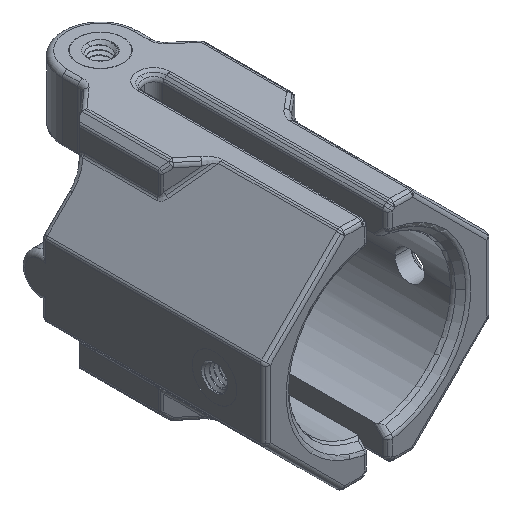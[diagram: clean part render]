
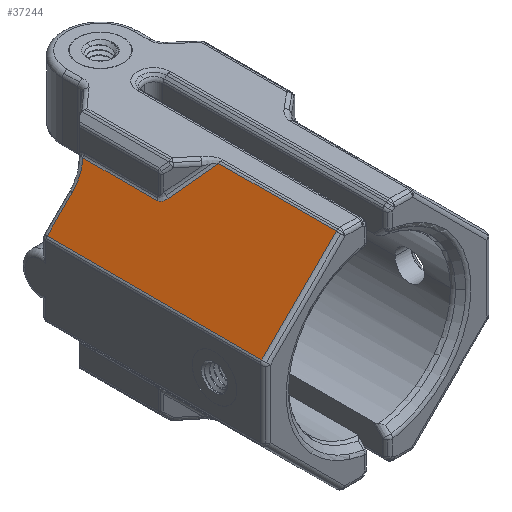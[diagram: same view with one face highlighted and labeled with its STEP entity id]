
A CAD part, isometric view. The second image highlights one B-rep face of the part: STEP entity #37244.
In plain terms, the highlighted planar face has unit normal (-0.707, 0, 0.707).
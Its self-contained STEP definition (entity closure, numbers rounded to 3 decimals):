
#597 = ORIENTED_EDGE ( 'NONE', *, *, #2888, .F. ) ;
#2472 = LINE ( 'NONE', #64556, #21283 ) ;
#2888 = EDGE_CURVE ( 'NONE', #40822, #22900, #19244, .T. ) ;
#3066 = DIRECTION ( 'NONE',  ( -0.707, 0., 0.707 ) ) ;
#3221 = DIRECTION ( 'NONE',  ( 0., 1., 0. ) ) ;
#3418 = CARTESIAN_POINT ( 'NONE',  ( -6.636, 14.467, 8.001 ) ) ;
#3850 = CARTESIAN_POINT ( 'NONE',  ( -6.766, 11.045, 7.871 ) ) ;
#4153 = CARTESIAN_POINT ( 'NONE',  ( -11.12, 0., 3.517 ) ) ;
#5545 = CARTESIAN_POINT ( 'NONE',  ( -6.401, 14.274, 8.236 ) ) ;
#5576 = ORIENTED_EDGE ( 'NONE', *, *, #70175, .F. ) ;
#7131 =( BOUNDED_CURVE ( )  B_SPLINE_CURVE ( 3, ( #19030, #58826, #3418, #19405 ),
 .UNSPECIFIED., .F., .F. ) 
 B_SPLINE_CURVE_WITH_KNOTS ( ( 4, 4 ),
 ( 0., 0.883 ),
 .UNSPECIFIED. ) 
 CURVE ( )  GEOMETRIC_REPRESENTATION_ITEM ( )  RATIONAL_B_SPLINE_CURVE ( ( 1., 0.936, 0.936, 1. ) ) 
 REPRESENTATION_ITEM ( '' )  );
#9061 = CARTESIAN_POINT ( 'NONE',  ( -7.85, 21.59, 6.787 ) ) ;
#10116 = VECTOR ( 'NONE', #66929, 1000. ) ;
#11800 = EDGE_LOOP ( 'NONE', ( #19533, #597, #72174, #64588, #43386, #52592, #63074, #5576 ) ) ;
#12932 = EDGE_CURVE ( 'NONE', #35968, #40822, #66219, .T. ) ;
#13585 = VECTOR ( 'NONE', #37386, 1000. ) ;
#14757 = VERTEX_POINT ( 'NONE', #70008 ) ;
#16316 = VERTEX_POINT ( 'NONE', #53328 ) ;
#17117 = CARTESIAN_POINT ( 'NONE',  ( -6.766, 15.046, 7.871 ) ) ;
#19030 = CARTESIAN_POINT ( 'NONE',  ( -6.766, 15.046, 7.871 ) ) ;
#19244 = LINE ( 'NONE', #36704, #38084 ) ;
#19405 = CARTESIAN_POINT ( 'NONE',  ( -6.401, 14.274, 8.236 ) ) ;
#19533 = ORIENTED_EDGE ( 'NONE', *, *, #49228, .F. ) ;
#19949 = CARTESIAN_POINT ( 'NONE',  ( -4.585, 12.781, 10.052 ) ) ;
#19993 = DIRECTION ( 'NONE',  ( -0.707, 0., -0.707 ) ) ;
#21283 = VECTOR ( 'NONE', #3221, 1000. ) ;
#22676 = VERTEX_POINT ( 'NONE', #17117 ) ;
#22900 = VERTEX_POINT ( 'NONE', #40741 ) ;
#23131 = EDGE_CURVE ( 'NONE', #22676, #32758, #7131, .T. ) ;
#31960 = LINE ( 'NONE', #60943, #44071 ) ;
#32427 = PLANE ( 'NONE',  #57337 ) ;
#32758 = VERTEX_POINT ( 'NONE', #5545 ) ;
#35968 = VERTEX_POINT ( 'NONE', #72292 ) ;
#36704 = CARTESIAN_POINT ( 'NONE',  ( -9.219, 0.5, 5.418 ) ) ;
#37244 = ADVANCED_FACE ( 'NONE', ( #59558 ), #32427, .T. ) ;
#37386 = DIRECTION ( 'NONE',  ( 0.611, -0.502, 0.611 ) ) ;
#38084 = VECTOR ( 'NONE', #19993, 1000. ) ;
#38363 = CARTESIAN_POINT ( 'NONE',  ( -8.51, 21.59, 6.127 ) ) ;
#40741 = CARTESIAN_POINT ( 'NONE',  ( -10.974, 0.5, 3.664 ) ) ;
#40822 = VERTEX_POINT ( 'NONE', #61475 ) ;
#41314 = CARTESIAN_POINT ( 'NONE',  ( -6.766, 22.299, 7.871 ) ) ;
#43386 = ORIENTED_EDGE ( 'NONE', *, *, #23131, .F. ) ;
#44066 = LINE ( 'NONE', #19949, #13585 ) ;
#44071 = VECTOR ( 'NONE', #71290, 1000. ) ;
#49228 = EDGE_CURVE ( 'NONE', #22900, #16316, #2472, .T. ) ;
#49559 = CARTESIAN_POINT ( 'NONE',  ( -6.766, 22.299, 7.871 ) ) ;
#49708 = EDGE_CURVE ( 'NONE', #54599, #22676, #55172, .T. ) ;
#49854 = VECTOR ( 'NONE', #61841, 1000. ) ;
#51389 = EDGE_CURVE ( 'NONE', #32758, #35968, #44066, .T. ) ;
#52592 = ORIENTED_EDGE ( 'NONE', *, *, #49708, .F. ) ;
#53328 = CARTESIAN_POINT ( 'NONE',  ( -10.974, 21.59, 3.664 ) ) ;
#54599 = VERTEX_POINT ( 'NONE', #41314 ) ;
#55172 = LINE ( 'NONE', #3850, #49854 ) ;
#56246 =( BOUNDED_CURVE ( )  B_SPLINE_CURVE ( 3, ( #38363, #9061, #60746, #49559 ),
 .UNSPECIFIED., .F., .F. ) 
 B_SPLINE_CURVE_WITH_KNOTS ( ( 4, 4 ),
 ( 4.712, 5.484 ),
 .UNSPECIFIED. ) 
 CURVE ( )  GEOMETRIC_REPRESENTATION_ITEM ( )  RATIONAL_B_SPLINE_CURVE ( ( 1., 0.951, 0.951, 1. ) ) 
 REPRESENTATION_ITEM ( '' )  );
#57337 = AXIS2_PLACEMENT_3D ( 'NONE', #4153, #3066, #60323 ) ;
#58826 = CARTESIAN_POINT ( 'NONE',  ( -6.766, 14.742, 7.871 ) ) ;
#59558 = FACE_OUTER_BOUND ( 'NONE', #11800, .T. ) ;
#60323 = DIRECTION ( 'NONE',  ( 0., 1., 0. ) ) ;
#60746 = CARTESIAN_POINT ( 'NONE',  ( -7.239, 21.838, 7.398 ) ) ;
#60943 = CARTESIAN_POINT ( 'NONE',  ( -9.219, 21.59, 5.418 ) ) ;
#61475 = CARTESIAN_POINT ( 'NONE',  ( -3.664, 0.5, 10.974 ) ) ;
#61841 = DIRECTION ( 'NONE',  ( 0., -1., 0. ) ) ;
#63074 = ORIENTED_EDGE ( 'NONE', *, *, #69707, .F. ) ;
#64556 = CARTESIAN_POINT ( 'NONE',  ( -10.974, 0., 3.664 ) ) ;
#64588 = ORIENTED_EDGE ( 'NONE', *, *, #51389, .F. ) ;
#66219 = LINE ( 'NONE', #71015, #10116 ) ;
#66929 = DIRECTION ( 'NONE',  ( 0., -1., 0. ) ) ;
#69707 = EDGE_CURVE ( 'NONE', #14757, #54599, #56246, .T. ) ;
#70008 = CARTESIAN_POINT ( 'NONE',  ( -8.51, 21.59, 6.127 ) ) ;
#70175 = EDGE_CURVE ( 'NONE', #16316, #14757, #31960, .T. ) ;
#71015 = CARTESIAN_POINT ( 'NONE',  ( -3.664, 0., 10.974 ) ) ;
#71290 = DIRECTION ( 'NONE',  ( 0.707, 0., 0.707 ) ) ;
#72174 = ORIENTED_EDGE ( 'NONE', *, *, #12932, .F. ) ;
#72292 = CARTESIAN_POINT ( 'NONE',  ( -3.664, 12.024, 10.974 ) ) ;
